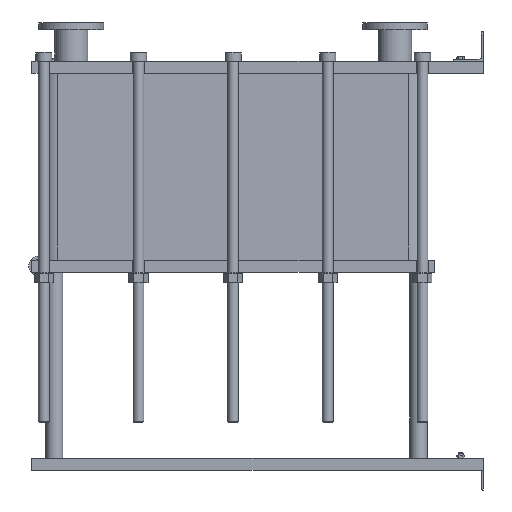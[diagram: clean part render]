
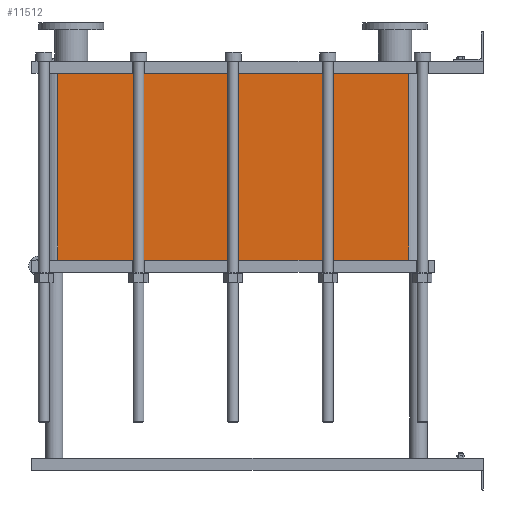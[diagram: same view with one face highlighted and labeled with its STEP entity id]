
A CAD part, left-side view. The second image highlights one B-rep face of the part: STEP entity #11512.
In plain terms, the highlighted planar face has unit normal (-1, 0, 0).
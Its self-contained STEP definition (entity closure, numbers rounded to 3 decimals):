
#1129=LINE('',#23232,#2102);
#1130=LINE('',#23236,#2103);
#1131=LINE('',#23238,#2104);
#1132=LINE('',#23239,#2105);
#2102=VECTOR('',#15887,10.);
#2103=VECTOR('',#15892,10.);
#2104=VECTOR('',#15893,10.);
#2105=VECTOR('',#15894,10.);
#3267=FACE_OUTER_BOUND('',#4093,.T.);
#4093=EDGE_LOOP('',(#10103,#10104,#10105,#10106));
#5642=VERTEX_POINT('',#23229);
#5643=VERTEX_POINT('',#23231);
#5644=VERTEX_POINT('',#23235);
#5645=VERTEX_POINT('',#23237);
#7159=EDGE_CURVE('',#5643,#5642,#1129,.T.);
#7161=EDGE_CURVE('',#5642,#5644,#1130,.T.);
#7162=EDGE_CURVE('',#5645,#5644,#1131,.T.);
#7163=EDGE_CURVE('',#5645,#5643,#1132,.T.);
#10103=ORIENTED_EDGE('',*,*,#7161,.T.);
#10104=ORIENTED_EDGE('',*,*,#7162,.F.);
#10105=ORIENTED_EDGE('',*,*,#7163,.T.);
#10106=ORIENTED_EDGE('',*,*,#7159,.T.);
#10857=PLANE('',#12751);
#11512=ADVANCED_FACE('',(#3267),#10857,.T.);
#12751=AXIS2_PLACEMENT_3D('',#23234,#15890,#15891);
#15887=DIRECTION('',(0.,0.,-1.));
#15890=DIRECTION('center_axis',(-1.,0.,0.));
#15891=DIRECTION('ref_axis',(0.,1.,0.));
#15892=DIRECTION('',(0.,-1.,0.));
#15893=DIRECTION('',(0.,0.,-1.));
#15894=DIRECTION('',(0.,1.,0.));
#23229=CARTESIAN_POINT('',(-200.,1414.,-621.));
#23231=CARTESIAN_POINT('',(-200.,1414.,0.));
#23232=CARTESIAN_POINT('',(-200.,1414.,0.));
#23234=CARTESIAN_POINT('Origin',(-200.,248.,0.));
#23235=CARTESIAN_POINT('',(-200.,248.,-621.));
#23236=CARTESIAN_POINT('',(-200.,539.5,-621.));
#23237=CARTESIAN_POINT('',(-200.,248.,0.));
#23238=CARTESIAN_POINT('',(-200.,248.,0.));
#23239=CARTESIAN_POINT('',(-200.,248.,0.));
